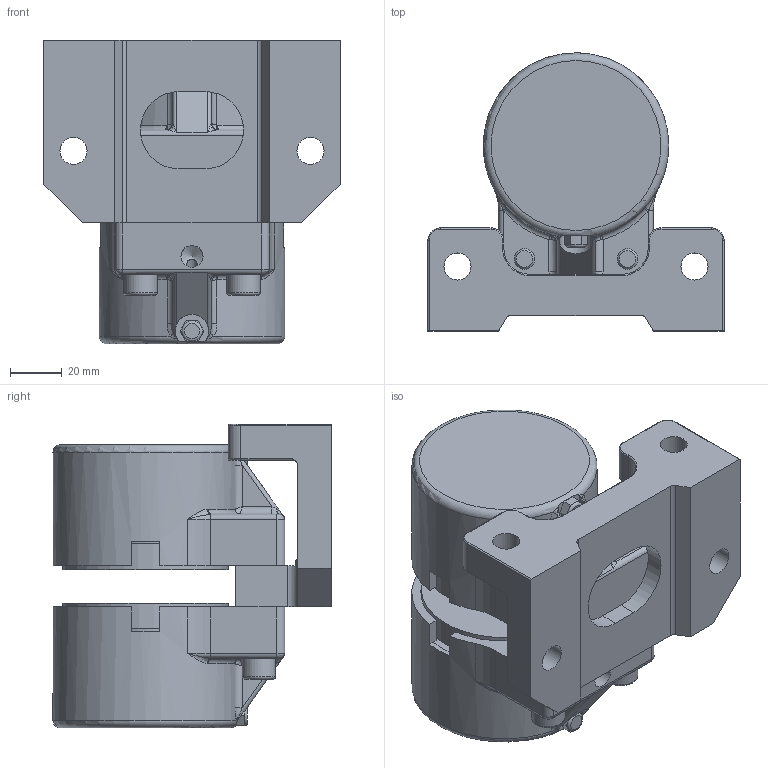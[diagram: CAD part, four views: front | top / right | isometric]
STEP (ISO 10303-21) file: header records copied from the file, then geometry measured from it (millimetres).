
FILE_DESCRIPTION(/* description */ ('','CAx-IF Rec.Pracs.---Representation and Presentation of Product Manufacturing Information (PMI)---4.0---2014-10-13'),/* implementation_level */ '2;1');
FILE_NAME(/* name */ 'X:\INVENTOR\DISEGNI\19_Pinze\STEP x Sito\PNEUM-NEGATIVE\19_36_M065_03 PPV-N065_12,7.stp',/* time_stamp */ '2018-02-21T14:51:46+01:00',/* author */ ('stefano'),/* organization */ (''),/* preprocessor_version */ 'ST-DEVELOPER v17',/* originating_system */ 'Autodesk Inventor 2018',/* authorisation */ '');
FILE_SCHEMA (('AP242_MANAGED_MODEL_BASED_3D_ENGINEERING_MIM_LF { 1 0 10303 442 1 1 4 }'));
Length unit declared in the file: millimetre
Products named in the file (1): 19_36_M065_03 PPV-N065_12,7_Substitute_3
Bounding box: 115 x 107.99 x 118 mm (x, y, z)
Volume: 472662 mm3; surface area: 126766.9 mm2
Topology: 1 solids, 1 shells, 391 faces, 1057 edges, 676 vertices
Faces by surface type: plane 167, cylinder 134, bspline 36, torus 33, cone 21
Full cylindrical faces by diameter (mm): 3 x6, 4 x3, 4.917 x2, 5 x3, 6 x2, 7.75 x2, 8 x2, 8.566 x1, 10 x2, 10.5 x4, 12 x2, 13 x2, 17 x2, 33.25 x2, 33.5 x2, 45 x1, 55 x3, 56.806 x1, 59 x2, 62.806 x1, 64.5 x2, 64.9 x2, 65 x4, 68 x2
Entity records: 14005 total; most frequent: CARTESIAN_POINT 3659, DIRECTION 2150, ORIENTED_EDGE 2072, EDGE_CURVE 1036, AXIS2_PLACEMENT_3D 860, VERTEX_POINT 676, CIRCLE 476, EDGE_LOOP 446
